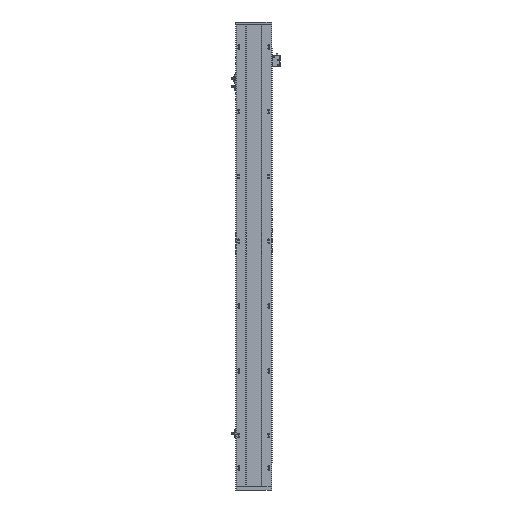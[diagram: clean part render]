
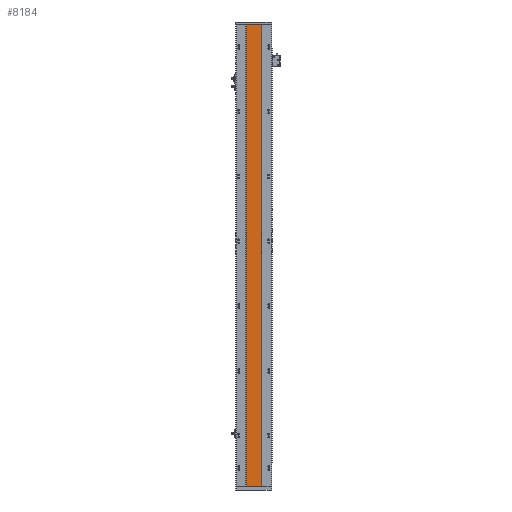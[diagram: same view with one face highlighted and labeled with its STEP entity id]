
A CAD part, front view. The second image highlights one B-rep face of the part: STEP entity #8184.
In plain terms, the highlighted planar face has unit normal (0, -1, 0).
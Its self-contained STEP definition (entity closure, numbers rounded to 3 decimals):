
#412 = ORIENTED_EDGE ( 'NONE', *, *, #25446, .F. ) ;
#1151 = DIRECTION ( 'NONE',  ( 1., 0., 0. ) ) ;
#1326 = ORIENTED_EDGE ( 'NONE', *, *, #4544, .T. ) ;
#2938 = ORIENTED_EDGE ( 'NONE', *, *, #9476, .F. ) ;
#3090 = CARTESIAN_POINT ( 'NONE',  ( 0., 115.96, 1540. ) ) ;
#3301 = LINE ( 'NONE', #5548, #16720 ) ;
#3811 = FACE_OUTER_BOUND ( 'NONE', #18396, .T. ) ;
#4014 = DIRECTION ( 'NONE',  ( 0., 0., -1. ) ) ;
#4544 = EDGE_CURVE ( 'NONE', #14605, #24337, #3301, .T. ) ;
#5196 = DIRECTION ( 'NONE',  ( 0., 1., 0. ) ) ;
#5548 = CARTESIAN_POINT ( 'NONE',  ( 133.07, 115.96, 1540. ) ) ;
#5861 = VECTOR ( 'NONE', #14541, 1000. ) ;
#7296 = EDGE_CURVE ( 'NONE', #24337, #27271, #16272, .T. ) ;
#7564 = LINE ( 'NONE', #23459, #5861 ) ;
#8184 = ADVANCED_FACE ( 'NONE', ( #3811 ), #23061, .F. ) ;
#9476 = EDGE_CURVE ( 'NONE', #20882, #27271, #20033, .T. ) ;
#11393 = VECTOR ( 'NONE', #1151, 1000. ) ;
#11561 = CARTESIAN_POINT ( 'NONE',  ( 183.063, 115.96, 1540. ) ) ;
#12996 = AXIS2_PLACEMENT_3D ( 'NONE', #3090, #5196, #16081 ) ;
#14541 = DIRECTION ( 'NONE',  ( 1., 0., 0. ) ) ;
#14605 = VERTEX_POINT ( 'NONE', #27359 ) ;
#16081 = DIRECTION ( 'NONE',  ( -1., 0., 0. ) ) ;
#16272 = LINE ( 'NONE', #23463, #11393 ) ;
#16720 = VECTOR ( 'NONE', #4014, 1000. ) ;
#17604 = VECTOR ( 'NONE', #24776, 1000. ) ;
#18396 = EDGE_LOOP ( 'NONE', ( #25692, #2938, #412, #1326 ) ) ;
#20033 = LINE ( 'NONE', #20135, #17604 ) ;
#20135 = CARTESIAN_POINT ( 'NONE',  ( 183.063, 115.96, 1540. ) ) ;
#20882 = VERTEX_POINT ( 'NONE', #11561 ) ;
#23061 = PLANE ( 'NONE',  #12996 ) ;
#23459 = CARTESIAN_POINT ( 'NONE',  ( 0., 115.96, 1540. ) ) ;
#23463 = CARTESIAN_POINT ( 'NONE',  ( 0., 115.96, 0. ) ) ;
#23837 = CARTESIAN_POINT ( 'NONE',  ( 183.063, 115.96, 0. ) ) ;
#24337 = VERTEX_POINT ( 'NONE', #27410 ) ;
#24776 = DIRECTION ( 'NONE',  ( 0., 0., -1. ) ) ;
#25446 = EDGE_CURVE ( 'NONE', #14605, #20882, #7564, .T. ) ;
#25692 = ORIENTED_EDGE ( 'NONE', *, *, #7296, .T. ) ;
#27271 = VERTEX_POINT ( 'NONE', #23837 ) ;
#27359 = CARTESIAN_POINT ( 'NONE',  ( 133.07, 115.96, 1540. ) ) ;
#27410 = CARTESIAN_POINT ( 'NONE',  ( 133.07, 115.96, 0. ) ) ;
